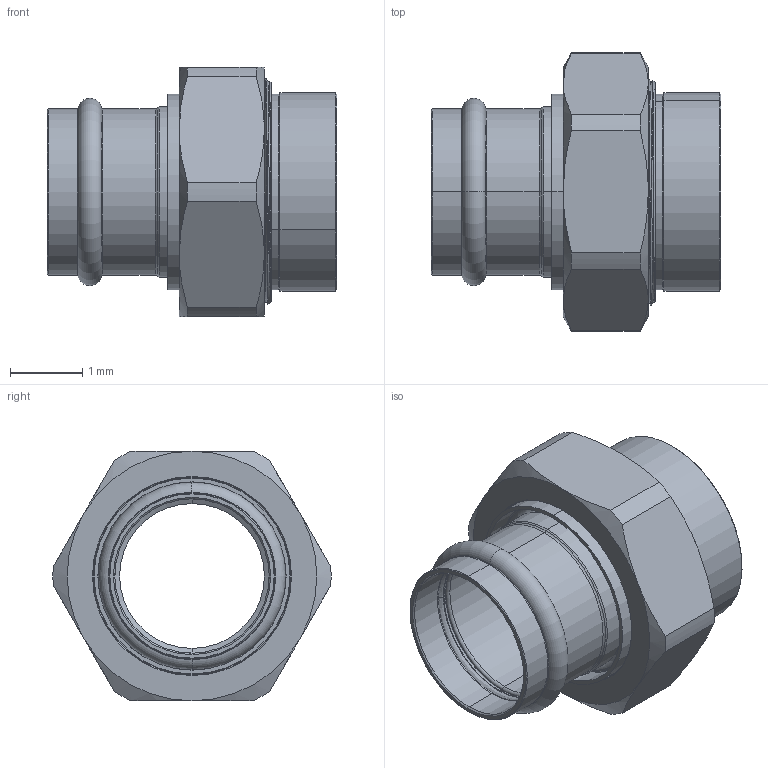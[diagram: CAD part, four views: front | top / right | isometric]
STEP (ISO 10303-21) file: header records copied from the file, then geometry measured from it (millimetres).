
FILE_DESCRIPTION(('Open CASCADE Model'),'2;1');
FILE_NAME('Open CASCADE Shape Model','2022-06-28T09:21:29',('Author'),( 'Open CASCADE'),'Open CASCADE STEP processor 7.3','Open CASCADE 7.3' ,'Unknown');
FILE_SCHEMA(('AUTOMOTIVE_DESIGN { 1 0 10303 214 1 1 1 1 }'));
Length unit declared in the file: millimetre
Products named in the file (7): Open CASCADE STEP translator 7.3 1; Open CASCADE STEP translator 7.3 1.1; Open CASCADE STEP translator 7.3 1.2; Open CASCADE STEP translator 7.3 1.3; Open CASCADE STEP translator 7.3 1.4; Open CASCADE STEP translator 7.3 1.5; Open CASCADE STEP translator 7.3 1.6
Assembly tree (6 placements, depth 2):
  Open CASCADE STEP translator 7.3 1
    Open CASCADE STEP translator 7.3 1.1
    Open CASCADE STEP translator 7.3 1.2
    Open CASCADE STEP translator 7.3 1.3
    Open CASCADE STEP translator 7.3 1.4
    Open CASCADE STEP translator 7.3 1.5
    Open CASCADE STEP translator 7.3 1.6
Bounding box: 4.02 x 3.86 x 3.47 mm (x, y, z)
Volume: 11 mm3; surface area: 150.4 mm2
Topology: 6 solids, 6 shells, 226 faces, 543 edges, 337 vertices
Faces by surface type: cylinder 87, cone 80, plane 28, torus 16, bspline 15
Entity records: 55366 total; most frequent: CARTESIAN_POINT 45266, DIRECTION 1637, ORIENTED_EDGE 1086, PCURVE 1086, DEFINITIONAL_REPRESENTATION 1086, LINE 762, VECTOR 762, EDGE_CURVE 543
